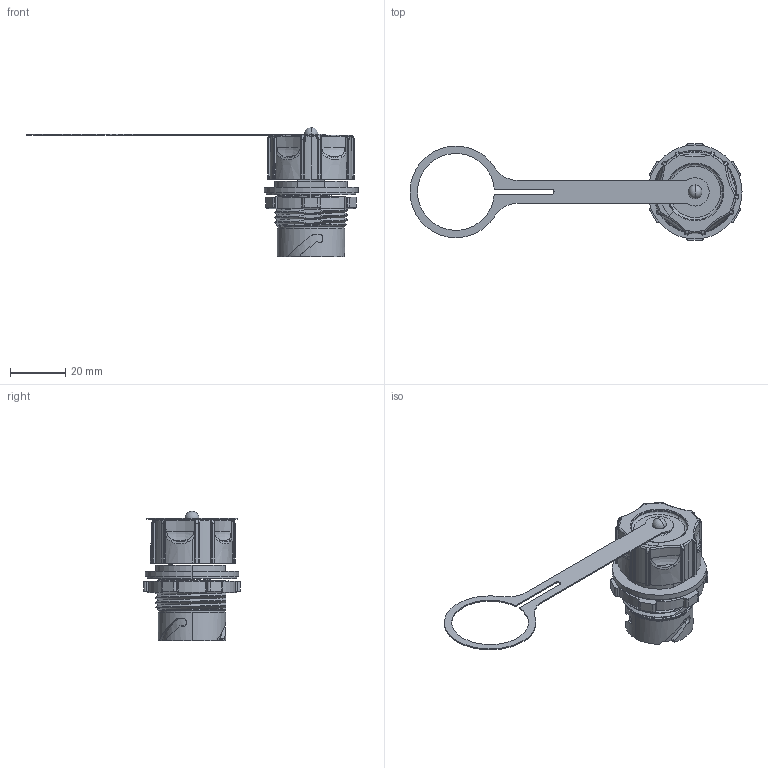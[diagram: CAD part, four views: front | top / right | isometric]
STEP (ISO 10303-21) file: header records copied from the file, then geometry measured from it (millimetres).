
FILE_DESCRIPTION (( 'STEP AP203' ), '1' );
FILE_NAME ('P- ()RevA - .step', '2022-03-17T20:38:20', ( 'Admin' ), ( '' ), 'SwSTEP 2.0', 'SolidWorks 2021', '' );
FILE_SCHEMA (( 'CONFIG_CONTROL_DESIGN' ));
Length unit declared in the file: millimetre
Products named in the file (1): P- ()RevA - 
Bounding box: 120.1 x 34.92 x 46.82 mm (x, y, z)
Surface area: 13114.8 mm2 (no closed solid volume)
Topology: 0 solids, 12 shells, 393 faces, 1235 edges, 856 vertices
Faces by surface type: cylinder 151, plane 113, bspline 99, cone 28, sphere 2
Entity records: 20809 total; most frequent: CARTESIAN_POINT 11227, ORIENTED_EDGE 2208, DIRECTION 1545, EDGE_CURVE 1231, VERTEX_POINT 854, AXIS2_PLACEMENT_3D 575, B_SPLINE_CURVE_WITH_KNOTS 471, EDGE_LOOP 414
